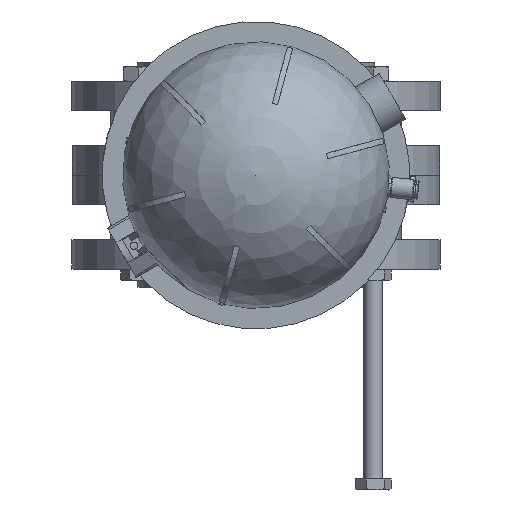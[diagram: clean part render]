
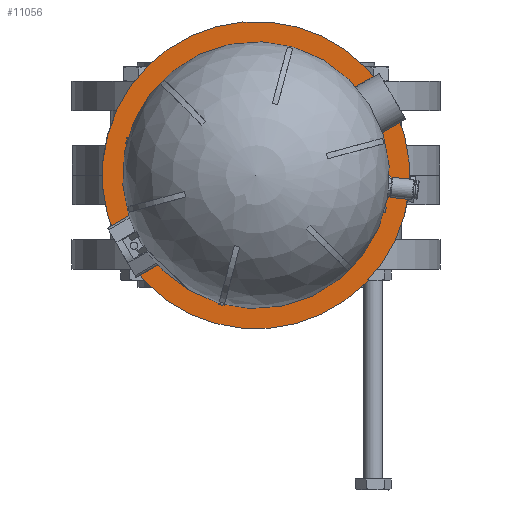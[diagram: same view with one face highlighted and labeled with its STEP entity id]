
A CAD part, left-side view. The second image highlights one B-rep face of the part: STEP entity #11056.
In plain terms, the highlighted planar face has unit normal (-1, 0, 0) as drawn and (0, 1, 0) by its records, which use the part's own axes.
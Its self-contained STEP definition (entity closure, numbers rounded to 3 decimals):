
#494=FACE_BOUND('',#1896,.T.);
#495=FACE_BOUND('',#1897,.T.);
#667=PLANE('',#12132);
#1180=FACE_OUTER_BOUND('',#1895,.T.);
#1895=EDGE_LOOP('',(#8306));
#1896=EDGE_LOOP('',(#8307,#8308,#8309,#8310,#8311,#8312,#8313,#8314,#8315,
#8316,#8317,#8318));
#1897=EDGE_LOOP('',(#8319));
#2613=LINE('',#18242,#3378);
#2619=LINE('',#18253,#3384);
#2623=LINE('',#18262,#3388);
#2629=LINE('',#18273,#3394);
#2632=LINE('',#18278,#3397);
#2642=LINE('',#18299,#3407);
#2645=LINE('',#18304,#3410);
#2650=LINE('',#18314,#3415);
#2657=LINE('',#18329,#3422);
#2662=LINE('',#18337,#3427);
#2664=LINE('',#18341,#3429);
#2666=LINE('',#18347,#3431);
#3378=VECTOR('',#13842,10.);
#3384=VECTOR('',#13850,10.);
#3388=VECTOR('',#13856,10.);
#3394=VECTOR('',#13864,10.);
#3397=VECTOR('',#13871,10.);
#3407=VECTOR('',#13887,10.);
#3410=VECTOR('',#13892,10.);
#3415=VECTOR('',#13901,10.);
#3422=VECTOR('',#13914,10.);
#3427=VECTOR('',#13921,10.);
#3429=VECTOR('',#13927,10.);
#3431=VECTOR('',#13937,10.);
#4126=CIRCLE('',#12131,83.5);
#4127=CIRCLE('',#12133,47.5);
#4914=VERTEX_POINT('',#18239);
#4915=VERTEX_POINT('',#18241);
#4919=VERTEX_POINT('',#18251);
#4920=VERTEX_POINT('',#18255);
#4923=VERTEX_POINT('',#18260);
#4927=VERTEX_POINT('',#18271);
#4934=VERTEX_POINT('',#18296);
#4935=VERTEX_POINT('',#18298);
#4936=VERTEX_POINT('',#18302);
#4939=VERTEX_POINT('',#18312);
#4944=VERTEX_POINT('',#18328);
#4946=VERTEX_POINT('',#18335);
#5001=VERTEX_POINT('',#18636);
#5002=VERTEX_POINT('',#18640);
#6090=EDGE_CURVE('',#4915,#4914,#2613,.T.);
#6096=EDGE_CURVE('',#4914,#4919,#2619,.T.);
#6100=EDGE_CURVE('',#4920,#4923,#2623,.T.);
#6106=EDGE_CURVE('',#4923,#4927,#2629,.T.);
#6109=EDGE_CURVE('',#4927,#4915,#2632,.T.);
#6119=EDGE_CURVE('',#4935,#4934,#2642,.T.);
#6122=EDGE_CURVE('',#4936,#4935,#2645,.T.);
#6127=EDGE_CURVE('',#4934,#4939,#2650,.T.);
#6134=EDGE_CURVE('',#4944,#4920,#2657,.T.);
#6139=EDGE_CURVE('',#4946,#4944,#2662,.T.);
#6141=EDGE_CURVE('',#4939,#4946,#2664,.T.);
#6143=EDGE_CURVE('',#4919,#4936,#2666,.T.);
#6236=EDGE_CURVE('',#5001,#5001,#4126,.T.);
#6237=EDGE_CURVE('',#5002,#5002,#4127,.T.);
#8306=ORIENTED_EDGE('',*,*,#6236,.F.);
#8307=ORIENTED_EDGE('',*,*,#6119,.T.);
#8308=ORIENTED_EDGE('',*,*,#6127,.T.);
#8309=ORIENTED_EDGE('',*,*,#6141,.T.);
#8310=ORIENTED_EDGE('',*,*,#6139,.T.);
#8311=ORIENTED_EDGE('',*,*,#6134,.T.);
#8312=ORIENTED_EDGE('',*,*,#6100,.T.);
#8313=ORIENTED_EDGE('',*,*,#6106,.T.);
#8314=ORIENTED_EDGE('',*,*,#6109,.T.);
#8315=ORIENTED_EDGE('',*,*,#6090,.T.);
#8316=ORIENTED_EDGE('',*,*,#6096,.T.);
#8317=ORIENTED_EDGE('',*,*,#6143,.T.);
#8318=ORIENTED_EDGE('',*,*,#6122,.T.);
#8319=ORIENTED_EDGE('',*,*,#6237,.T.);
#11056=ADVANCED_FACE('',(#1180,#494,#495),#667,.T.);
#12131=AXIS2_PLACEMENT_3D('',#18638,#14150,#14151);
#12132=AXIS2_PLACEMENT_3D('',#18639,#14152,#14153);
#12133=AXIS2_PLACEMENT_3D('',#18641,#14154,#14155);
#13842=DIRECTION('',(0.099,0.,-0.995));
#13850=DIRECTION('',(0.584,0.,-0.812));
#13856=DIRECTION('',(-0.995,0.,-0.099));
#13864=DIRECTION('',(-0.812,0.,-0.584));
#13871=DIRECTION('',(-0.412,0.,-0.911));
#13887=DIRECTION('',(0.812,0.,0.584));
#13892=DIRECTION('',(0.995,0.,0.099));
#13901=DIRECTION('',(0.412,0.,0.911));
#13914=DIRECTION('',(-0.911,0.,0.412));
#13921=DIRECTION('',(-0.584,0.,0.812));
#13927=DIRECTION('',(-0.099,0.,0.995));
#13937=DIRECTION('',(0.911,0.,-0.412));
#14150=DIRECTION('center_axis',(0.,-1.,0.));
#14151=DIRECTION('ref_axis',(-0.906,0.,0.422));
#14152=DIRECTION('center_axis',(0.,1.,0.));
#14153=DIRECTION('ref_axis',(-0.422,0.,-0.906));
#14154=DIRECTION('center_axis',(0.,-1.,0.));
#14155=DIRECTION('ref_axis',(-0.906,0.,0.422));
#18239=CARTESIAN_POINT('',(-641.616,254.203,537.079));
#18241=CARTESIAN_POINT('',(-641.864,254.203,539.567));
#18242=CARTESIAN_POINT('',(-644.997,254.203,570.965));
#18251=CARTESIAN_POINT('',(-639.109,254.203,533.591));
#18253=CARTESIAN_POINT('',(-674.376,254.203,582.674));
#18255=CARTESIAN_POINT('',(-633.792,254.203,545.367));
#18260=CARTESIAN_POINT('',(-638.066,254.203,544.94));
#18262=CARTESIAN_POINT('',(-693.572,254.203,539.402));
#18271=CARTESIAN_POINT('',(-640.096,254.203,543.481));
#18273=CARTESIAN_POINT('',(-666.848,254.203,524.26));
#18278=CARTESIAN_POINT('',(-640.744,254.203,542.048));
#18296=CARTESIAN_POINT('',(-630.526,254.203,534.447));
#18298=CARTESIAN_POINT('',(-632.557,254.203,532.988));
#18299=CARTESIAN_POINT('',(-657.075,254.203,515.371));
#18302=CARTESIAN_POINT('',(-636.831,254.203,532.562));
#18304=CARTESIAN_POINT('',(-691.914,254.203,527.066));
#18312=CARTESIAN_POINT('',(-628.759,254.203,538.362));
#18314=CARTESIAN_POINT('',(-629.231,254.203,537.315));
#18328=CARTESIAN_POINT('',(-631.513,254.203,544.338));
#18329=CARTESIAN_POINT('',(-693.711,254.203,572.424));
#18335=CARTESIAN_POINT('',(-629.007,254.203,540.849));
#18337=CARTESIAN_POINT('',(-664.521,254.203,590.277));
#18341=CARTESIAN_POINT('',(-632.413,254.203,574.984));
#18347=CARTESIAN_POINT('',(-699.029,254.203,560.648));
#18636=CARTESIAN_POINT('',(-621.714,254.203,532.631));
#18638=CARTESIAN_POINT('Origin',(-697.406,254.203,567.887));
#18639=CARTESIAN_POINT('Origin',(-756.781,254.203,595.542));
#18640=CARTESIAN_POINT('',(-654.348,254.203,547.831));
#18641=CARTESIAN_POINT('Origin',(-697.406,254.203,567.887));
